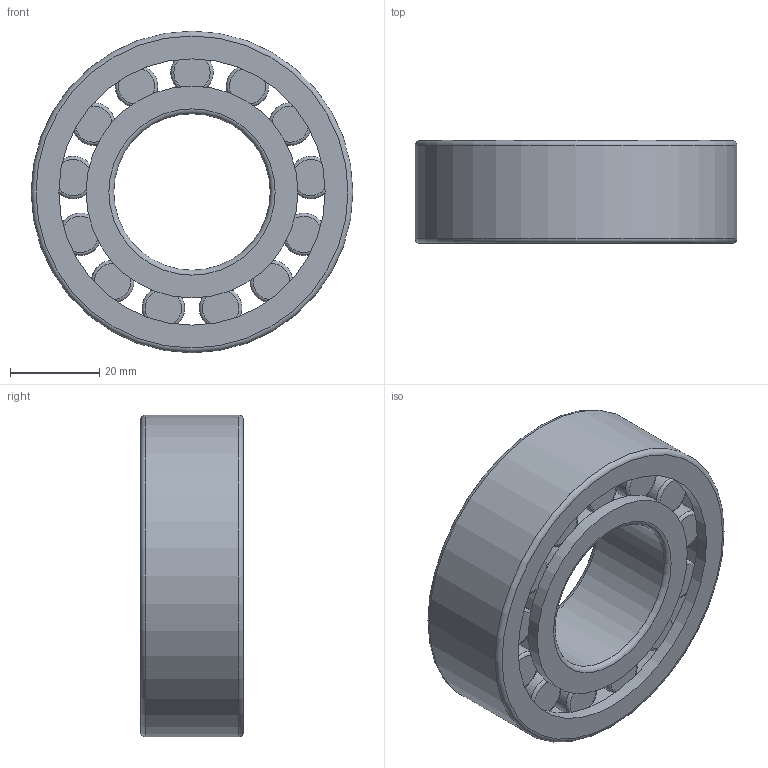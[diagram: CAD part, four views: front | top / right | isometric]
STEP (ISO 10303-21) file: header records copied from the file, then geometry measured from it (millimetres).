
FILE_DESCRIPTION(/* description */ (''),/* implementation_level */ '2;1');
FILE_NAME(/* name */ 'C:\Users\OUREHANEKD\Desktop\Ložiská\MODELY\JRVL\NCF\NCF22\NCF22--\NCF2207V.stp',/* time_stamp */ '2016-09-09T09:16:25+02:00',/* author */ ('OUREHANEKD'),/* organization */ (''),/* preprocessor_version */ 'ST-DEVELOPER v15.6',/* originating_system */ 'Autodesk Inventor 2015',/* authorisation */ '');
FILE_SCHEMA (('AUTOMOTIVE_DESIGN { 1 0 10303 214 3 1 1 }'));
Length unit declared in the file: millimetre
Products named in the file (5): NCF2207V-01; NCF2207V-02; NCF2207V-kr; NCF2207V-roller; NCF2207V
Assembly tree (16 placements, depth 2):
  NCF2207V
    NCF2207V-01
    NCF2207V-02
    NCF2207V-kr
    NCF2207V-roller  x13
Bounding box: 72 x 23 x 72 mm (x, y, z)
Volume: 53138.8 mm3; surface area: 29580 mm2
Topology: 16 solids, 16 shells, 92 faces, 134 edges, 79 vertices
Faces by surface type: plane 37, torus 31, cylinder 24
Full cylindrical faces by diameter (mm): 9.5 x13, 35 x1, 44 x1, 47.42 x2, 59.58 x2, 63 x2, 64 x2, 72 x1
Entity records: 888 total; most frequent: DIRECTION 168, CARTESIAN_POINT 115, AXIS2_PLACEMENT_3D 84, EDGE_LOOP 62, ORIENTED_EDGE 62, STYLED_ITEM 36, FACE_OUTER_BOUND 32, ADVANCED_FACE 32
